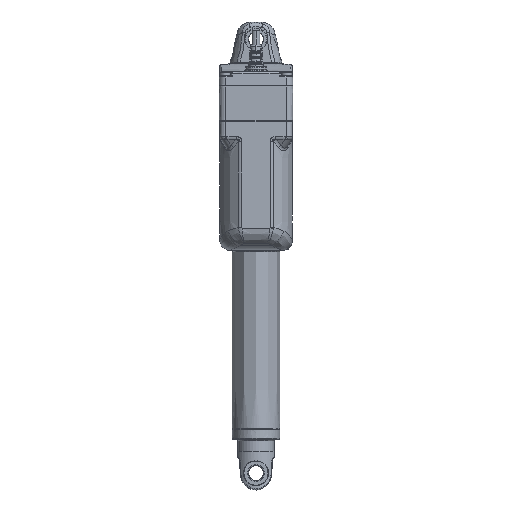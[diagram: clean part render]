
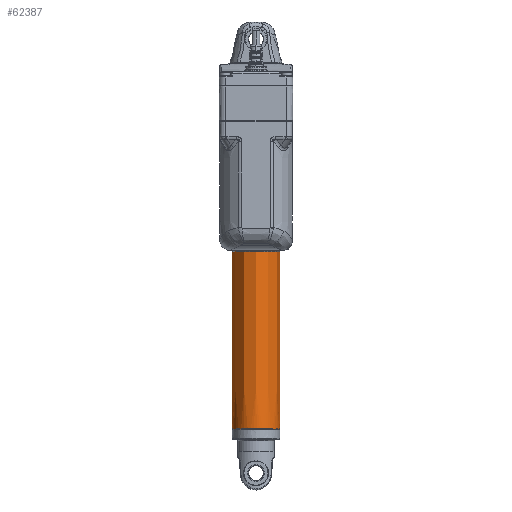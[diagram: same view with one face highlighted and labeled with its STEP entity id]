
A CAD part, left-side view. The second image highlights one B-rep face of the part: STEP entity #62387.
In plain terms, the highlighted face is a extrusion surface.
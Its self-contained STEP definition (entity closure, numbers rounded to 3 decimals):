
#58684=CARTESIAN_POINT('',(0.,16.5,-1.25));
#58685=CARTESIAN_POINT('',(-3.491,16.5,-1.25));
#58686=CARTESIAN_POINT('',(-10.467,14.957,-1.25));
#58687=CARTESIAN_POINT('',(-18.131,8.636,-1.25));
#58688=CARTESIAN_POINT('',(-20.935,0.,-1.25));
#58689=CARTESIAN_POINT('',(-18.131,-8.636,-1.25));
#58690=CARTESIAN_POINT('',(-10.467,-14.957,-1.25));
#58691=CARTESIAN_POINT('',(-3.491,-16.5,-1.25));
#58692=CARTESIAN_POINT('',(0.,-16.5,-1.25));
#58719=DIRECTION('',(0.,0.,1.));
#58720=VECTOR('',#58719,214.25);
#58721=CARTESIAN_POINT('',(0.,16.5,-1.25));
#58722=LINE('',#58721,#58720);
#58739=DIRECTION('',(0.,0.,1.));
#58740=VECTOR('',#58739,214.25);
#58741=CARTESIAN_POINT('',(0.,-16.5,-1.25));
#58742=LINE('',#58741,#58740);
#58768=CARTESIAN_POINT('',(0.,16.5,213.));
#58769=CARTESIAN_POINT('',(-3.491,16.5,213.));
#58770=CARTESIAN_POINT('',(-10.467,14.957,213.));
#58771=CARTESIAN_POINT('',(-18.131,8.636,213.));
#58772=CARTESIAN_POINT('',(-20.935,0.,213.));
#58773=CARTESIAN_POINT('',(-18.131,-8.636,213.));
#58774=CARTESIAN_POINT('',(-10.467,-14.957,213.));
#58775=CARTESIAN_POINT('',(-3.491,-16.5,213.));
#58776=CARTESIAN_POINT('',(0.,-16.5,213.));
#58927=VERTEX_POINT('',#58684);
#58928=VERTEX_POINT('',#58692);
#59153=CARTESIAN_POINT('',(0.,16.5,213.));
#59155=VERTEX_POINT('',#59153);
#59156=VERTEX_POINT('',#58776);
#62363=CARTESIAN_POINT('',(0.575,16.493,-1.25));
#62364=CARTESIAN_POINT('',(0.383,16.498,-1.25));
#62365=CARTESIAN_POINT('',(-3.299,16.542,-1.25));
#62366=CARTESIAN_POINT('',(-10.467,14.957,-1.25));
#62367=CARTESIAN_POINT('',(-18.131,8.636,-1.25));
#62368=CARTESIAN_POINT('',(-20.935,0.,-1.25));
#62369=CARTESIAN_POINT('',(-18.131,-8.636,-1.25));
#62370=CARTESIAN_POINT('',(-10.467,-14.957,-1.25));
#62371=CARTESIAN_POINT('',(-3.299,-16.542,-1.25));
#62372=CARTESIAN_POINT('',(0.383,-16.498,-1.25));
#62373=CARTESIAN_POINT('',(0.575,-16.493,-1.25));
#62375=DIRECTION('',(0.,0.,1.));
#62376=VECTOR('',#62375,1.);
#62377=SURFACE_OF_LINEAR_EXTRUSION('',#62374,#62376);
#62379=ORIENTED_EDGE('',*,*,#62378,.T.);
#62381=ORIENTED_EDGE('',*,*,#62380,.T.);
#62383=ORIENTED_EDGE('',*,*,#62382,.F.);
#62384=ORIENTED_EDGE('',*,*,#62335,.F.);
#62385=EDGE_LOOP('',(#62379,#62381,#62383,#62384));
#62386=FACE_OUTER_BOUND('',#62385,.F.);
#58693=B_SPLINE_CURVE_WITH_KNOTS('',3,(#58684,#58685,#58686,#58687,#58688,
#58689,#58690,#58691,#58692),.UNSPECIFIED.,.F.,.F.,(4,1,1,1,1,1,4),(0.,
0.167,0.333,0.5,0.667,0.833,
1.),.UNSPECIFIED.);
#58777=B_SPLINE_CURVE_WITH_KNOTS('',3,(#58768,#58769,#58770,#58771,#58772,
#58773,#58774,#58775,#58776),.UNSPECIFIED.,.F.,.F.,(4,1,1,1,1,1,4),(0.,
0.167,0.333,0.5,0.667,0.833,
1.),.UNSPECIFIED.);
#62335=EDGE_CURVE('',#58927,#58928,#58693,.T.);
#62374=B_SPLINE_CURVE_WITH_KNOTS('',3,(#62363,#62364,#62365,#62366,#62367,
#62368,#62369,#62370,#62371,#62372,#62373),.UNSPECIFIED.,.F.,.F.,(4,1,1,1,1,1,1,
1,4),(0.,0.009,0.173,0.336,
0.5,0.664,0.827,0.991,1.),
.UNSPECIFIED.);
#62378=EDGE_CURVE('',#58927,#59155,#58722,.T.);
#62380=EDGE_CURVE('',#59155,#59156,#58777,.T.);
#62382=EDGE_CURVE('',#58928,#59156,#58742,.T.);
#62387=ADVANCED_FACE('',(#62386),#62377,.T.);
